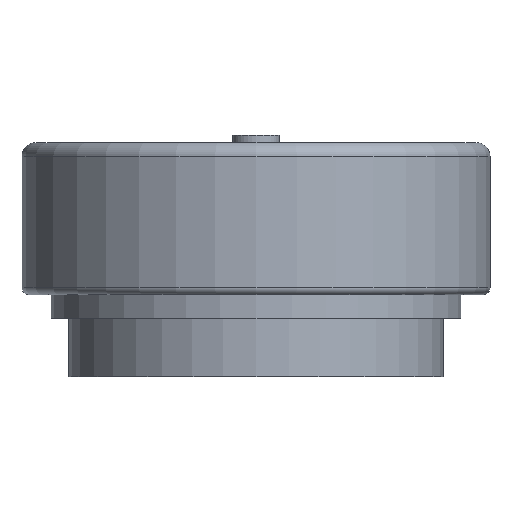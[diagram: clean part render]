
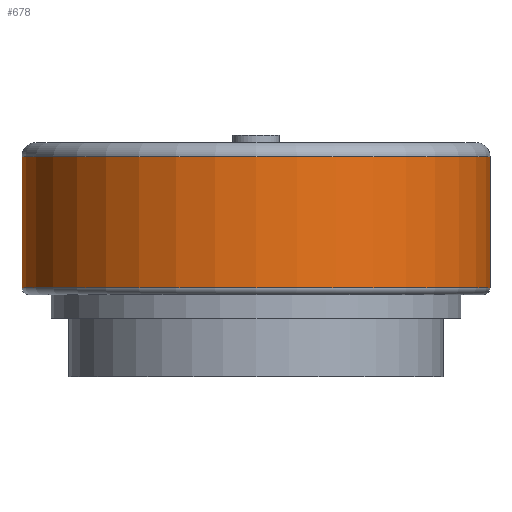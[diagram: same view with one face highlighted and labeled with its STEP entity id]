
A CAD part, left-side view. The second image highlights one B-rep face of the part: STEP entity #678.
In plain terms, the highlighted cylindrical face has radius 20 mm (diameter 40 mm), a full revolution.
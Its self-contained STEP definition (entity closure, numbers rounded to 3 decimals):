
#610 = TOROIDAL_SURFACE('',#611,19.4,0.6);
#611 = AXIS2_PLACEMENT_3D('',#612,#613,#614);
#612 = CARTESIAN_POINT('',(48.,0.,12.8));
#613 = DIRECTION('',(-0.,-0.,-1.));
#614 = DIRECTION('',(1.,0.,-0.));
#629 = VERTEX_POINT('',#630);
#630 = CARTESIAN_POINT('',(68.,0.,12.8));
#650 = EDGE_CURVE('',#629,#629,#651,.T.);
#651 = SURFACE_CURVE('',#652,(#657,#664),.PCURVE_S1.);
#652 = CIRCLE('',#653,20.);
#653 = AXIS2_PLACEMENT_3D('',#654,#655,#656);
#654 = CARTESIAN_POINT('',(48.,0.,12.8));
#655 = DIRECTION('',(0.,0.,1.));
#656 = DIRECTION('',(1.,0.,-0.));
#657 = PCURVE('',#610,#658);
#658 = DEFINITIONAL_REPRESENTATION('',(#659),#663);
#659 = LINE('',#660,#661);
#660 = CARTESIAN_POINT('',(-0.,0.));
#661 = VECTOR('',#662,1.);
#662 = DIRECTION('',(-1.,0.));
#663 = ( GEOMETRIC_REPRESENTATION_CONTEXT(2) 
PARAMETRIC_REPRESENTATION_CONTEXT() REPRESENTATION_CONTEXT('2D SPACE',''
  ) );
#664 = PCURVE('',#665,#670);
#665 = CYLINDRICAL_SURFACE('',#666,20.);
#666 = AXIS2_PLACEMENT_3D('',#667,#668,#669);
#667 = CARTESIAN_POINT('',(48.,0.,12.2));
#668 = DIRECTION('',(0.,0.,1.));
#669 = DIRECTION('',(1.,0.,-0.));
#670 = DEFINITIONAL_REPRESENTATION('',(#671),#675);
#671 = LINE('',#672,#673);
#672 = CARTESIAN_POINT('',(0.,0.6));
#673 = VECTOR('',#674,1.);
#674 = DIRECTION('',(1.,0.));
#675 = ( GEOMETRIC_REPRESENTATION_CONTEXT(2) 
PARAMETRIC_REPRESENTATION_CONTEXT() REPRESENTATION_CONTEXT('2D SPACE',''
  ) );
#678 = ADVANCED_FACE('',(#679),#665,.T.);
#679 = FACE_BOUND('',#680,.T.);
#680 = EDGE_LOOP('',(#681,#704,#731,#732));
#681 = ORIENTED_EDGE('',*,*,#682,.T.);
#682 = EDGE_CURVE('',#629,#683,#685,.T.);
#683 = VERTEX_POINT('',#684);
#684 = CARTESIAN_POINT('',(68.,0.,24.));
#685 = SEAM_CURVE('',#686,(#690,#697),.PCURVE_S1.);
#686 = LINE('',#687,#688);
#687 = CARTESIAN_POINT('',(68.,0.,12.2));
#688 = VECTOR('',#689,1.);
#689 = DIRECTION('',(0.,0.,1.));
#690 = PCURVE('',#665,#691);
#691 = DEFINITIONAL_REPRESENTATION('',(#692),#696);
#692 = LINE('',#693,#694);
#693 = CARTESIAN_POINT('',(6.283,-0.));
#694 = VECTOR('',#695,1.);
#695 = DIRECTION('',(0.,1.));
#696 = ( GEOMETRIC_REPRESENTATION_CONTEXT(2) 
PARAMETRIC_REPRESENTATION_CONTEXT() REPRESENTATION_CONTEXT('2D SPACE',''
  ) );
#697 = PCURVE('',#665,#698);
#698 = DEFINITIONAL_REPRESENTATION('',(#699),#703);
#699 = LINE('',#700,#701);
#700 = CARTESIAN_POINT('',(0.,-0.));
#701 = VECTOR('',#702,1.);
#702 = DIRECTION('',(0.,1.));
#703 = ( GEOMETRIC_REPRESENTATION_CONTEXT(2) 
PARAMETRIC_REPRESENTATION_CONTEXT() REPRESENTATION_CONTEXT('2D SPACE',''
  ) );
#704 = ORIENTED_EDGE('',*,*,#705,.F.);
#705 = EDGE_CURVE('',#683,#683,#706,.T.);
#706 = SURFACE_CURVE('',#707,(#712,#719),.PCURVE_S1.);
#707 = CIRCLE('',#708,20.);
#708 = AXIS2_PLACEMENT_3D('',#709,#710,#711);
#709 = CARTESIAN_POINT('',(48.,0.,24.));
#710 = DIRECTION('',(0.,0.,1.));
#711 = DIRECTION('',(1.,0.,-0.));
#712 = PCURVE('',#665,#713);
#713 = DEFINITIONAL_REPRESENTATION('',(#714),#718);
#714 = LINE('',#715,#716);
#715 = CARTESIAN_POINT('',(0.,11.8));
#716 = VECTOR('',#717,1.);
#717 = DIRECTION('',(1.,0.));
#718 = ( GEOMETRIC_REPRESENTATION_CONTEXT(2) 
PARAMETRIC_REPRESENTATION_CONTEXT() REPRESENTATION_CONTEXT('2D SPACE',''
  ) );
#719 = PCURVE('',#720,#725);
#720 = TOROIDAL_SURFACE('',#721,18.8,1.2);
#721 = AXIS2_PLACEMENT_3D('',#722,#723,#724);
#722 = CARTESIAN_POINT('',(48.,0.,24.));
#723 = DIRECTION('',(0.,0.,1.));
#724 = DIRECTION('',(1.,0.,-0.));
#725 = DEFINITIONAL_REPRESENTATION('',(#726),#730);
#726 = LINE('',#727,#728);
#727 = CARTESIAN_POINT('',(0.,0.));
#728 = VECTOR('',#729,1.);
#729 = DIRECTION('',(1.,0.));
#730 = ( GEOMETRIC_REPRESENTATION_CONTEXT(2) 
PARAMETRIC_REPRESENTATION_CONTEXT() REPRESENTATION_CONTEXT('2D SPACE',''
  ) );
#731 = ORIENTED_EDGE('',*,*,#682,.F.);
#732 = ORIENTED_EDGE('',*,*,#650,.T.);
